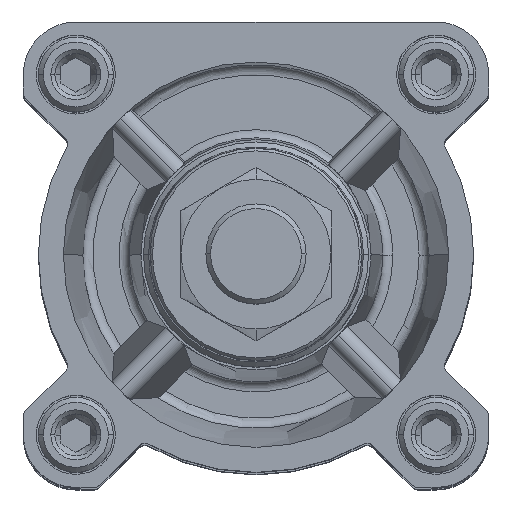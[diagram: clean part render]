
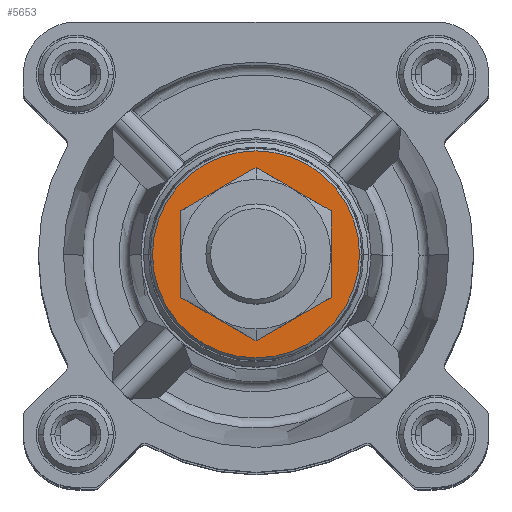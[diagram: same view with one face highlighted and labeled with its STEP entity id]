
A CAD part, top view. The second image highlights one B-rep face of the part: STEP entity #5653.
In plain terms, the highlighted planar face has unit normal (0, 0, 1).
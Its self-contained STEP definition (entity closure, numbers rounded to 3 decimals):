
#416 = DIRECTION ( 'NONE',  ( 0., -1., 0. ) ) ;
#506 = FACE_BOUND ( 'NONE', #10100, .T. ) ;
#868 = VERTEX_POINT ( 'NONE', #12164 ) ;
#1428 = EDGE_CURVE ( 'NONE', #12580, #868, #15437, .T. ) ;
#1435 = DIRECTION ( 'NONE',  ( -1., 0., 0. ) ) ;
#1748 = EDGE_CURVE ( 'NONE', #17069, #4876, #18309, .T. ) ;
#3055 = FACE_OUTER_BOUND ( 'NONE', #12403, .T. ) ;
#3537 = AXIS2_PLACEMENT_3D ( 'NONE', #12813, #16865, #9872 ) ;
#4752 = CARTESIAN_POINT ( 'NONE',  ( 0., 0., 34.2 ) ) ;
#4876 = VERTEX_POINT ( 'NONE', #13575 ) ;
#5653 = ADVANCED_FACE ( 'NONE', ( #3055, #506 ), #11851, .F. ) ;
#6636 = CARTESIAN_POINT ( 'NONE',  ( 0., 0., 34.2 ) ) ;
#7733 = AXIS2_PLACEMENT_3D ( 'NONE', #4752, #10425, #416 ) ;
#8769 = DIRECTION ( 'NONE',  ( 0., 0., -1. ) ) ;
#9371 = ORIENTED_EDGE ( 'NONE', *, *, #10937, .T. ) ;
#9872 = DIRECTION ( 'NONE',  ( -1., 0., 0. ) ) ;
#10100 = EDGE_LOOP ( 'NONE', ( #17665, #9371 ) ) ;
#10425 = DIRECTION ( 'NONE',  ( 0., 0., -1. ) ) ;
#10460 = AXIS2_PLACEMENT_3D ( 'NONE', #11367, #15821, #1435 ) ;
#10937 = EDGE_CURVE ( 'NONE', #4876, #17069, #15353, .T. ) ;
#11214 = CARTESIAN_POINT ( 'NONE',  ( -12.5, 0., 34.2 ) ) ;
#11367 = CARTESIAN_POINT ( 'NONE',  ( 0., 0., 34.2 ) ) ;
#11487 = AXIS2_PLACEMENT_3D ( 'NONE', #13143, #8769, #14369 ) ;
#11851 = PLANE ( 'NONE',  #7733 ) ;
#12164 = CARTESIAN_POINT ( 'NONE',  ( 20.686, 0., 34.2 ) ) ;
#12403 = EDGE_LOOP ( 'NONE', ( #12847, #18624 ) ) ;
#12512 = DIRECTION ( 'NONE',  ( 0., 0., -1. ) ) ;
#12580 = VERTEX_POINT ( 'NONE', #15000 ) ;
#12813 = CARTESIAN_POINT ( 'NONE',  ( 0., 0., 34.2 ) ) ;
#12847 = ORIENTED_EDGE ( 'NONE', *, *, #1428, .F. ) ;
#12986 = CIRCLE ( 'NONE', #11487, 20.686 ) ;
#13143 = CARTESIAN_POINT ( 'NONE',  ( 0., 0., 34.2 ) ) ;
#13575 = CARTESIAN_POINT ( 'NONE',  ( 12.5, 0., 34.2 ) ) ;
#14369 = DIRECTION ( 'NONE',  ( -1., 0., 0. ) ) ;
#15000 = CARTESIAN_POINT ( 'NONE',  ( -20.686, 0., 34.2 ) ) ;
#15353 = CIRCLE ( 'NONE', #3537, 12.5 ) ;
#15437 = CIRCLE ( 'NONE', #17837, 20.686 ) ;
#15442 = DIRECTION ( 'NONE',  ( -1., 0., 0. ) ) ;
#15821 = DIRECTION ( 'NONE',  ( 0., 0., -1. ) ) ;
#16732 = EDGE_CURVE ( 'NONE', #868, #12580, #12986, .T. ) ;
#16865 = DIRECTION ( 'NONE',  ( 0., 0., -1. ) ) ;
#17069 = VERTEX_POINT ( 'NONE', #11214 ) ;
#17665 = ORIENTED_EDGE ( 'NONE', *, *, #1748, .T. ) ;
#17837 = AXIS2_PLACEMENT_3D ( 'NONE', #6636, #12512, #15442 ) ;
#18309 = CIRCLE ( 'NONE', #10460, 12.5 ) ;
#18624 = ORIENTED_EDGE ( 'NONE', *, *, #16732, .F. ) ;
